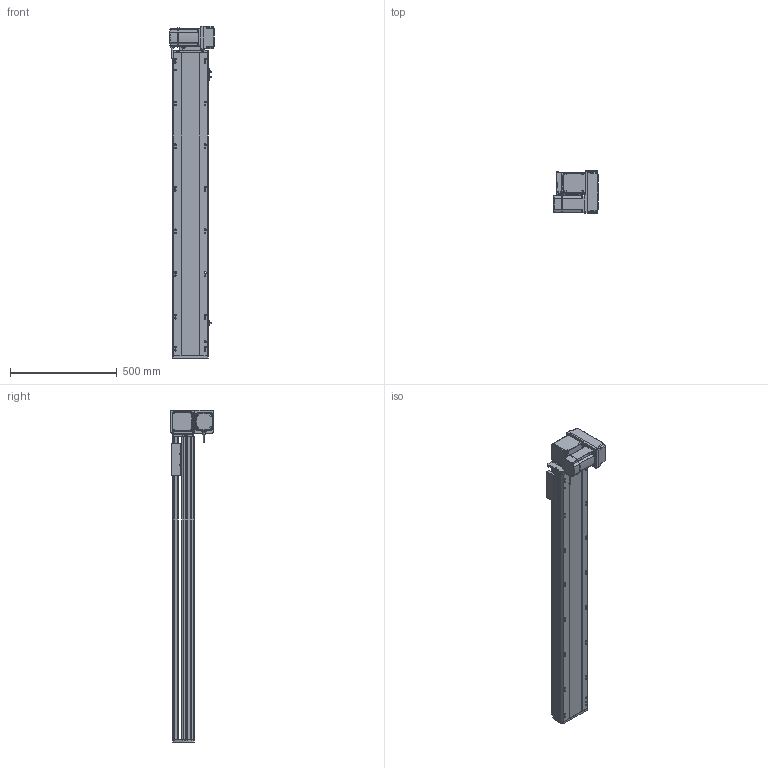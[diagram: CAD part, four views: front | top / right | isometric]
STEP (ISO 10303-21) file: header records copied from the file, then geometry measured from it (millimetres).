
FILE_DESCRIPTION (( 'STEP AP214' ), '1' );
FILE_NAME ('RTB17S-XX-1150-RM-M75-C4.STEP', '2025-12-12T02:06:55', ( '' ), ( '' ), 'SwSTEP 2.0', 'SolidWorks 2018', '' );
FILE_SCHEMA (( 'AUTOMOTIVE_DESIGN' ));
Length unit declared in the file: millimetre
Products named in the file (15): RTB17S-L-014-T20-P75--々湍釱^RTB17S-RM-々湍釱蚾饜-750W_RTB17S-XX-XX-RM-M75-C4; RTB22S-GY-005P^RTB17S-RM-々湍釱蚾饜-750W_RTB17S-XX-XX-RM-M75-C4; EE672^RTB17S-XX-XX-RM-M75-C4; RTB22S-GY-018P^RTB17S-RM-々湍釱蚾饜-750W_RTB17S-XX-XX-RM-M75-C4; RTB17-R-011菁釱^RTB17S-XX-XX-RM-M75-C4; RTB17S-賑釱^RTB17S-XX-XX-RM-M75-C4; RTB17S-L-001-耜醱啣^RTB17S-XX-XX-RM-M75-C4; 750W萇儂^RTB17S-XX-XX-RM-M75-C4; RTB22S-GY-017P^RTB17S-RM-々湍釱蚾饜-750W_RTB17S-XX-XX-RM-M75-C4; RTB22S-GY-008-M75--萇儂啣^RTB17S-RM-々湍釱蚾饜-750W_RTB17S-XX-XX-RM-M75-C4; RTB17S-L-004-賑釱^RTB17S-賑釱_RTB17S-XX-XX-RM-M75-C4; RTB17S-RM-々湍釱蚾饜-750W^RTB17S-XX-XX-RM-M75-C4; RTB17S-L-007奻裔^RTB17S-XX-XX-RM-M75-C4; RTH13-BL-012覜茼え俋离^RTB17S-賑釱_RTB17S-XX-XX-RM-M75-C4; RTB17S-XX-1150-RM-M75-C4
Assembly tree (17 placements, depth 3):
  RTB17S-XX-1150-RM-M75-C4
    RTB17-R-011菁釱^RTB17S-XX-XX-RM-M75-C4
    EE672^RTB17S-XX-XX-RM-M75-C4  x3
    RTB17S-L-001-耜醱啣^RTB17S-XX-XX-RM-M75-C4
    RTB17S-賑釱^RTB17S-XX-XX-RM-M75-C4
      RTB17S-L-004-賑釱^RTB17S-賑釱_RTB17S-XX-XX-RM-M75-C4
      RTH13-BL-012覜茼え俋离^RTB17S-賑釱_RTB17S-XX-XX-RM-M75-C4
    RTB17S-L-007奻裔^RTB17S-XX-XX-RM-M75-C4
    750W萇儂^RTB17S-XX-XX-RM-M75-C4
    RTB17S-RM-々湍釱蚾饜-750W^RTB17S-XX-XX-RM-M75-C4
      RTB17S-L-014-T20-P75--々湍釱^RTB17S-RM-々湍釱蚾饜-750W_RTB17S-XX-XX-RM-M75-C4
      RTB22S-GY-005P^RTB17S-RM-々湍釱蚾饜-750W_RTB17S-XX-XX-RM-M75-C4
      RTB22S-GY-017P^RTB17S-RM-々湍釱蚾饜-750W_RTB17S-XX-XX-RM-M75-C4  x2
      RTB22S-GY-008-M75--萇儂啣^RTB17S-RM-々湍釱蚾饜-750W_RTB17S-XX-XX-RM-M75-C4
      RTB22S-GY-018P^RTB17S-RM-々湍釱蚾饜-750W_RTB17S-XX-XX-RM-M75-C4
Bounding box: 207.4 x 200 x 1557.5 mm (x, y, z)
Volume: 13138812.9 mm3; surface area: 2255168.4 mm2
Topology: 17 solids, 17 shells, 2105 faces, 5836 edges, 3770 vertices
Faces by surface type: plane 972, cylinder 717, bspline 294, cone 110, sphere 8, torus 4
Entity records: 58870 total; most frequent: CARTESIAN_POINT 17300, ORIENTED_EDGE 8516, DIRECTION 7952, EDGE_CURVE 4258, AXIS2_PLACEMENT_3D 2790, VERTEX_POINT 2774, LINE 2372, VECTOR 2372
